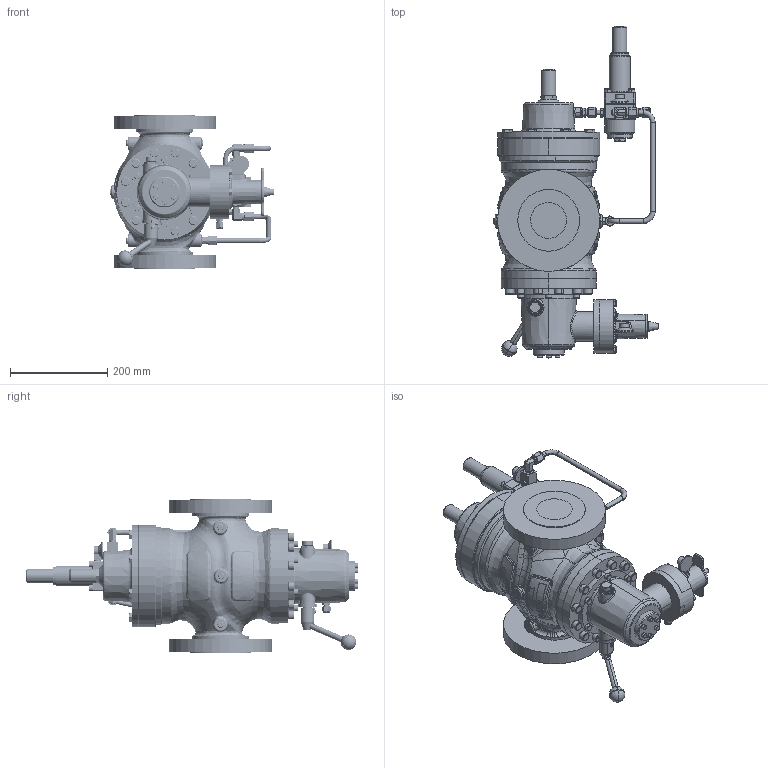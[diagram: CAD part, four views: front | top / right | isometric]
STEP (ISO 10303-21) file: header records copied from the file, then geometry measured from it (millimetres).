
FILE_DESCRIPTION((''),'2;1');
FILE_NAME('ASM0001_SW3000','2019-01-11T',('jjunior'),(''),'PRO/ENGINEER BY PARAMETRIC TECHNOLOGY CORPORATION, 2010160','PRO/ENGINEER BY PARAMETRIC TECHNOLOGY CORPORATION, 2010160','');
FILE_SCHEMA(('CONFIG_CONTROL_DESIGN'));
Length unit declared in the file: millimetre
Products named in the file (1): ASM0001_SW3000
Bounding box: 338.7 x 682.7 x 317 mm (x, y, z)
Volume: 8102420.8 mm3; surface area: 1202834.9 mm2
Topology: 1 solids, 19 shells, 4564 faces, 11296 edges, 7046 vertices
Faces by surface type: plane 2152, cylinder 791, cone 712, bspline 631, torus 268, sphere 10
Entity records: 195687 total; most frequent: CARTESIAN_POINT 96726, ORIENTED_EDGE 22472, DIRECTION 17394, EDGE_CURVE 11236, VERTEX_POINT 7046, AXIS2_PLACEMENT_3D 6555, EDGE_LOOP 4966, FACE_OUTER_BOUND 4564
